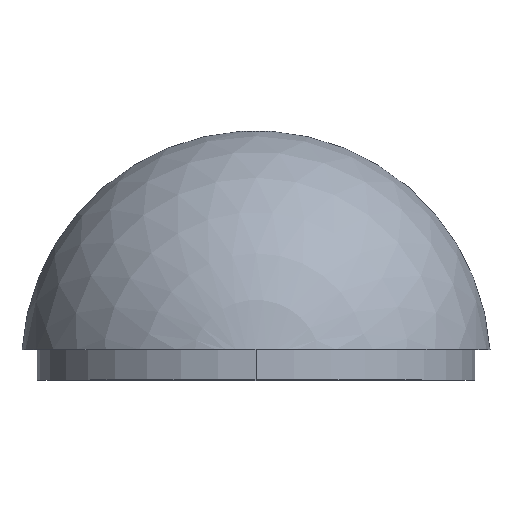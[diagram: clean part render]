
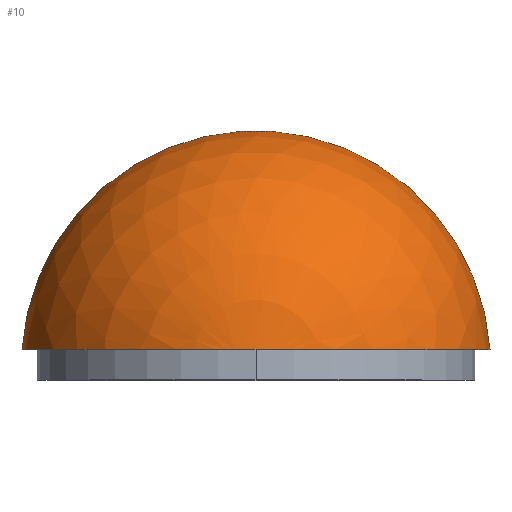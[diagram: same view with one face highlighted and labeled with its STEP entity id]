
A CAD part, top view. The second image highlights one B-rep face of the part: STEP entity #10.
In plain terms, the highlighted spherical face has radius 15 mm.
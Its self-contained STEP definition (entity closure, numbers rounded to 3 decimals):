
#10 = ADVANCED_FACE ( 'NONE', ( #364 ), #366, .T. ) ;
#35 = DIRECTION ( 'NONE',  ( 0., 0., -1. ) ) ;
#36 = DIRECTION ( 'NONE',  ( -1., 0., 0. ) ) ;
#50 = CARTESIAN_POINT ( 'NONE',  ( 0., 0., 0. ) ) ;
#56 = CARTESIAN_POINT ( 'NONE',  ( 0., 14.967, 1. ) ) ;
#61 = CARTESIAN_POINT ( 'NONE',  ( -14.967, 1., 0. ) ) ;
#65 = DIRECTION ( 'NONE',  ( 1., 0., 0. ) ) ;
#71 = CARTESIAN_POINT ( 'NONE',  ( 0., 0., 0. ) ) ;
#72 = DIRECTION ( 'NONE',  ( 0., 0., 1. ) ) ;
#86 = CARTESIAN_POINT ( 'NONE',  ( 0., 0., 0. ) ) ;
#87 = DIRECTION ( 'NONE',  ( 0., 0., -1. ) ) ;
#90 = DIRECTION ( 'NONE',  ( -1., 0., 0. ) ) ;
#93 = DIRECTION ( 'NONE',  ( 0., -1., 0. ) ) ;
#95 = DIRECTION ( 'NONE',  ( 0., 0., -1. ) ) ;
#113 = DIRECTION ( 'NONE',  ( 0., -1., 0. ) ) ;
#114 = CARTESIAN_POINT ( 'NONE',  ( 0., 14.967, 0. ) ) ;
#119 = CARTESIAN_POINT ( 'NONE',  ( 0., 14.967, 0. ) ) ;
#120 = DIRECTION ( 'NONE',  ( 0., 0., -1. ) ) ;
#127 = DIRECTION ( 'NONE',  ( 0., -1., 0. ) ) ;
#133 = CARTESIAN_POINT ( 'NONE',  ( -1., 14.967, 0. ) ) ;
#136 = CARTESIAN_POINT ( 'NONE',  ( 14.967, 1., 0. ) ) ;
#147 = CARTESIAN_POINT ( 'NONE',  ( 0., 1., 0. ) ) ;
#152 = DIRECTION ( 'NONE',  ( 0., 0., -1. ) ) ;
#162 = CARTESIAN_POINT ( 'NONE',  ( 1., 14.967, 0. ) ) ;
#187 = ORIENTED_EDGE ( 'NONE', *, *, #266, .T. ) ;
#228 = ORIENTED_EDGE ( 'NONE', *, *, #273, .T. ) ;
#229 = ORIENTED_EDGE ( 'NONE', *, *, #264, .T. ) ;
#239 = ORIENTED_EDGE ( 'NONE', *, *, #308, .F. ) ;
#241 = ORIENTED_EDGE ( 'NONE', *, *, #260, .F. ) ;
#243 = VERTEX_POINT ( 'NONE', #56 ) ;
#244 = VERTEX_POINT ( 'NONE', #61 ) ;
#260 = EDGE_CURVE ( 'NONE', #341, #342, #384, .T. ) ;
#264 = EDGE_CURVE ( 'NONE', #327, #244, #393, .T. ) ;
#266 = EDGE_CURVE ( 'NONE', #243, #327, #394, .T. ) ;
#273 = EDGE_CURVE ( 'NONE', #341, #243, #405, .T. ) ;
#288 = AXIS2_PLACEMENT_3D ( 'NONE', #86, #87, #90 ) ;
#298 = AXIS2_PLACEMENT_3D ( 'NONE', #71, #72, #65 ) ;
#302 = AXIS2_PLACEMENT_3D ( 'NONE', #114, #113, #95 ) ;
#303 = AXIS2_PLACEMENT_3D ( 'NONE', #50, #35, #36 ) ;
#308 = EDGE_CURVE ( 'NONE', #342, #244, #412, .T. ) ;
#318 = AXIS2_PLACEMENT_3D ( 'NONE', #147, #127, #152 ) ;
#327 = VERTEX_POINT ( 'NONE', #133 ) ;
#341 = VERTEX_POINT ( 'NONE', #162 ) ;
#342 = VERTEX_POINT ( 'NONE', #136 ) ;
#344 = AXIS2_PLACEMENT_3D ( 'NONE', #119, #93, #120 ) ;
#348 = EDGE_LOOP ( 'NONE', ( #241, #228, #187, #229, #239 ) ) ;
#364 = FACE_OUTER_BOUND ( 'NONE', #348, .T. ) ;
#366 = SPHERICAL_SURFACE ( 'NONE', #303, 15. ) ;
#384 = CIRCLE ( 'NONE', #288, 15. ) ;
#393 = CIRCLE ( 'NONE', #298, 15. ) ;
#394 = CIRCLE ( 'NONE', #302, 1. ) ;
#405 = CIRCLE ( 'NONE', #344, 1. ) ;
#412 = CIRCLE ( 'NONE', #318, 14.967 ) ;
